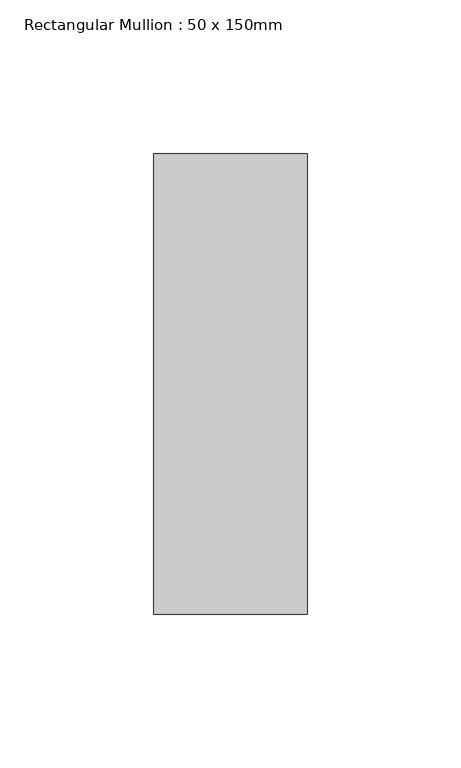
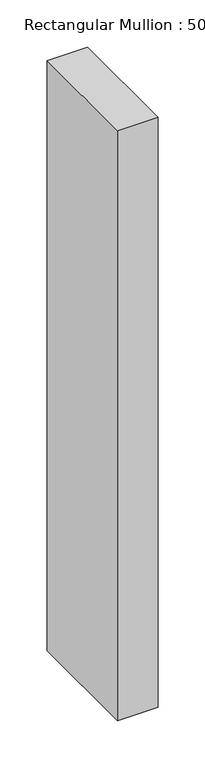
"""IFC4 building model written with IfcOpenShell, lengths in millimetres: member geometry, Rectangular Mullion : 50 x 150mm."""

from ifc_helpers import new_model, si_unit, frame, origin, place, context, project, spatial, polyline, outline, extrude, source, transform, mapped, element, save


def rectangular_mullion_50_x_150mm_306d9536(model_context):
    return source(origin(), model_context, "Body", "SweptSolid", [
        extrude(outline(polyline([(0.0, 75.0), (0.0, -75.0), (-50.0, -75.0), (-50.0, 75.0), (0.0, 75.0)])), frame((0.0, 0.0, -766.2848986), z_axis=(0.0, 0.0, 1.0), x_axis=(1.0, 0.0, 0.0)), (0.0, 0.0, 1.0), 766.2848986),
    ])


if __name__ == "__main__":
    model = new_model("IFC4")
    model_context = context("Model", 3, world=origin())
    ifc_project = project(units=[si_unit("LENGTHUNIT", "METRE", prefix="MILLI")], contexts=[model_context])
    site = spatial("IfcSite", under=ifc_project)
    building = spatial("IfcBuilding", under=site)
    placement = place(None, origin())
    rectangular_mullion_50_x_150mm_shape = rectangular_mullion_50_x_150mm_306d9536(model_context)
    element("IfcMember", 1, ObjectType="Rectangular Mullion : 50 x 150mm", at=placement, inside=building, context=model_context, shape_type="MappedRepresentation", body=[
        mapped(rectangular_mullion_50_x_150mm_shape, transform((0.0, 0.0, 0.0), x_axis=(1.0, 0.0, 0.0), y_axis=(0.0, 1.0, 0.0), z_axis=(0.0, 0.0, 1.0))),
    ])
    save(model, "model.ifc")
